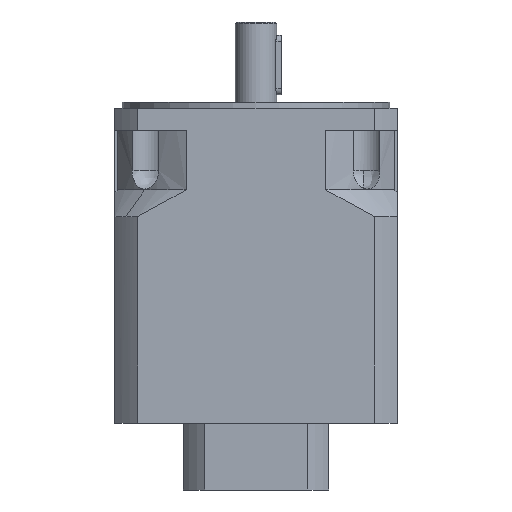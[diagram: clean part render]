
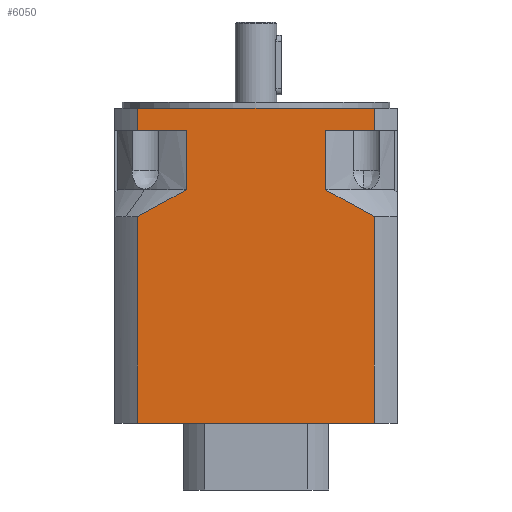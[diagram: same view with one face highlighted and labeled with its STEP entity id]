
A CAD part, front view. The second image highlights one B-rep face of the part: STEP entity #6050.
In plain terms, the highlighted planar face has unit normal (0, -1, 0).
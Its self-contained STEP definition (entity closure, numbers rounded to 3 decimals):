
#4755=CARTESIAN_POINT('',(-79.693,-95.0,257.));
#4756=VERTEX_POINT('',#4755);
#4757=CARTESIAN_POINT('',(79.693,-95.,257.));
#4758=VERTEX_POINT('',#4757);
#4759=CARTESIAN_POINT('',(-79.693,-95.0,257.));
#4760=DIRECTION('',(1.0,0.0,0.0));
#4761=VECTOR('',#4760,159.386);
#4762=LINE('',#4759,#4761);
#4763=EDGE_CURVE('',#4756,#4758,#4762,.T.);
#4915=CARTESIAN_POINT('',(79.693,-95.,242.));
#4916=VERTEX_POINT('',#4915);
#4917=CARTESIAN_POINT('',(79.693,-95.,257.));
#4918=DIRECTION('',(0.0,0.0,-1.0));
#4919=VECTOR('',#4918,15.);
#4920=LINE('',#4917,#4919);
#4921=EDGE_CURVE('',#4758,#4916,#4920,.T.);
#4947=CARTESIAN_POINT('',(-79.693,-95.0,242.));
#4948=VERTEX_POINT('',#4947);
#4949=CARTESIAN_POINT('',(-79.693,-95.0,242.));
#4950=DIRECTION('',(0.0,0.0,1.0));
#4951=VECTOR('',#4950,15.);
#4952=LINE('',#4949,#4951);
#4953=EDGE_CURVE('',#4948,#4756,#4952,.T.);
#5107=CARTESIAN_POINT('',(47.021,-95.0,242.));
#5108=VERTEX_POINT('',#5107);
#5109=CARTESIAN_POINT('',(79.693,-95.,242.));
#5110=DIRECTION('',(-1.0,0.0,0.0));
#5111=VECTOR('',#5110,32.672);
#5112=LINE('',#5109,#5111);
#5113=EDGE_CURVE('',#4916,#5108,#5112,.T.);
#5176=CARTESIAN_POINT('',(-47.021,-95.0,242.));
#5177=VERTEX_POINT('',#5176);
#5178=CARTESIAN_POINT('',(-47.021,-95.0,242.));
#5179=DIRECTION('',(-1.0,0.0,0.0));
#5180=VECTOR('',#5179,32.672);
#5181=LINE('',#5178,#5180);
#5182=EDGE_CURVE('',#5177,#4948,#5181,.T.);
#5639=CARTESIAN_POINT('',(47.021,-95.0,202.));
#5640=VERTEX_POINT('',#5639);
#5648=CARTESIAN_POINT('',(79.693,-95.0,184.0));
#5649=VERTEX_POINT('',#5648);
#5650=CARTESIAN_POINT('',(79.693,-95.0,184.0));
#5651=CARTESIAN_POINT('',(62.079,-95.0,195.321));
#5652=CARTESIAN_POINT('',(47.021,-95.0,202.));
#5660=(BOUNDED_CURVE()B_SPLINE_CURVE(2,(#5650,#5651,#5652),.UNSPECIFIED.,.F.,.U.)B_SPLINE_CURVE_WITH_KNOTS((3,3),(0.324,4.1),.UNSPECIFIED.)CURVE()GEOMETRIC_REPRESENTATION_ITEM()RATIONAL_B_SPLINE_CURVE((1.002,1.011,1.0))REPRESENTATION_ITEM(''));
#5661=EDGE_CURVE('',#5649,#5640,#5660,.T.);
#5821=CARTESIAN_POINT('',(47.021,-95.0,202.));
#5822=DIRECTION('',(0.0,0.0,1.0));
#5823=VECTOR('',#5822,40.);
#5824=LINE('',#5821,#5823);
#5825=EDGE_CURVE('',#5640,#5108,#5824,.T.);
#5874=CARTESIAN_POINT('',(-47.021,-95.0,202.));
#5875=VERTEX_POINT('',#5874);
#5883=CARTESIAN_POINT('',(-47.021,-95.0,242.));
#5884=DIRECTION('',(0.0,0.0,-1.0));
#5885=VECTOR('',#5884,40.);
#5886=LINE('',#5883,#5885);
#5887=EDGE_CURVE('',#5177,#5875,#5886,.T.);
#5922=CARTESIAN_POINT('',(-79.693,-95.,184.));
#5923=VERTEX_POINT('',#5922);
#5931=CARTESIAN_POINT('',(-47.021,-95.,202.));
#5932=CARTESIAN_POINT('',(-62.079,-95.,195.321));
#5933=CARTESIAN_POINT('',(-79.693,-95.,184.));
#5941=(BOUNDED_CURVE()B_SPLINE_CURVE(2,(#5931,#5932,#5933),.UNSPECIFIED.,.F.,.U.)B_SPLINE_CURVE_WITH_KNOTS((3,3),(0.0,3.776),.UNSPECIFIED.)CURVE()GEOMETRIC_REPRESENTATION_ITEM()RATIONAL_B_SPLINE_CURVE((1.0,1.011,1.002))REPRESENTATION_ITEM(''));
#5942=EDGE_CURVE('',#5875,#5923,#5941,.T.);
#6012=CARTESIAN_POINT('',(-87.662,-95.0,267.6));
#6013=DIRECTION('',(0.0,-1.0,0.0));
#6014=DIRECTION('',(0.0,0.0,-1.0));
#6015=AXIS2_PLACEMENT_3D('',#6012,#6013,#6014);
#6016=PLANE('',#6015);
#6017=ORIENTED_EDGE('',*,*,#5887,.T.);
#6018=ORIENTED_EDGE('',*,*,#5942,.T.);
#6019=CARTESIAN_POINT('',(-79.693,-95.,45.0));
#6020=VERTEX_POINT('',#6019);
#6021=CARTESIAN_POINT('',(-79.693,-95.,45.0));
#6022=DIRECTION('',(0.0,0.0,1.0));
#6023=VECTOR('',#6022,139.);
#6024=LINE('',#6021,#6023);
#6025=EDGE_CURVE('',#6020,#5923,#6024,.T.);
#6026=ORIENTED_EDGE('',*,*,#6025,.F.);
#6027=CARTESIAN_POINT('',(79.693,-95.0,45.0));
#6028=VERTEX_POINT('',#6027);
#6029=CARTESIAN_POINT('',(79.693,-95.0,45.0));
#6030=DIRECTION('',(-1.0,0.0,0.0));
#6031=VECTOR('',#6030,159.386);
#6032=LINE('',#6029,#6031);
#6033=EDGE_CURVE('',#6028,#6020,#6032,.T.);
#6034=ORIENTED_EDGE('',*,*,#6033,.F.);
#6035=CARTESIAN_POINT('',(79.693,-95.0,184.0));
#6036=DIRECTION('',(0.0,0.0,-1.0));
#6037=VECTOR('',#6036,139.0);
#6038=LINE('',#6035,#6037);
#6039=EDGE_CURVE('',#5649,#6028,#6038,.T.);
#6040=ORIENTED_EDGE('',*,*,#6039,.F.);
#6041=ORIENTED_EDGE('',*,*,#5661,.T.);
#6042=ORIENTED_EDGE('',*,*,#5825,.T.);
#6043=ORIENTED_EDGE('',*,*,#5113,.F.);
#6044=ORIENTED_EDGE('',*,*,#4921,.F.);
#6045=ORIENTED_EDGE('',*,*,#4763,.F.);
#6046=ORIENTED_EDGE('',*,*,#4953,.F.);
#6047=ORIENTED_EDGE('',*,*,#5182,.F.);
#6048=EDGE_LOOP('',(#6017,#6018,#6026,#6034,#6040,#6041,#6042,#6043,#6044,#6045,#6046,#6047));
#6049=FACE_OUTER_BOUND('',#6048,.T.);
#6050=ADVANCED_FACE('',(#6049),#6016,.T.);
